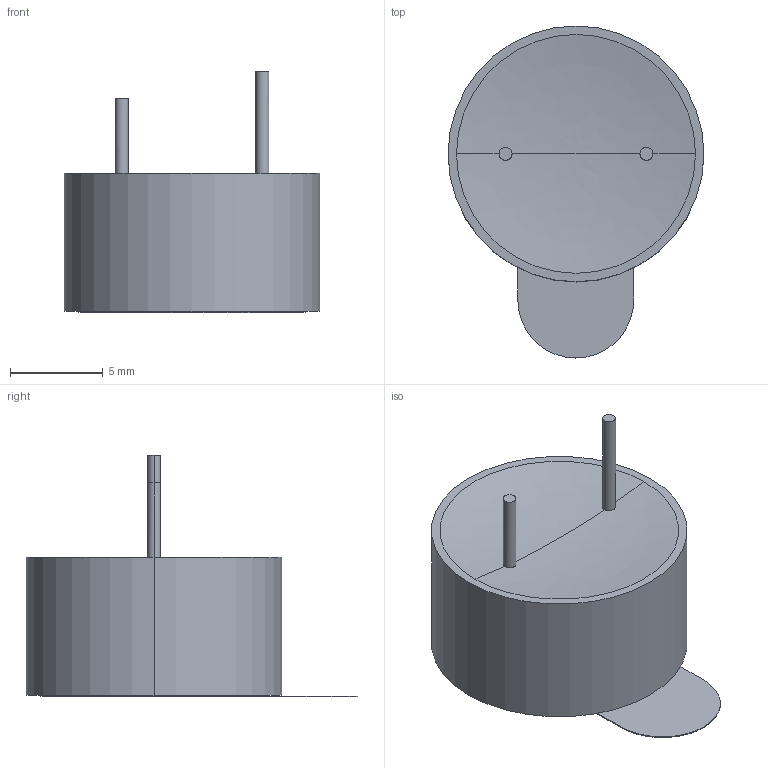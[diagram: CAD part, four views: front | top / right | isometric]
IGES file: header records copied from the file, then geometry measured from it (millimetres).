
Global section: file name: No Iges File Name specified; native system: AutoDesk Inventor R12.0; preprocessor: AutoDesk Inventor Iges Exporter R12.0; date: 20090219.083051; units: millimetre
Bounding box: 13.8 x 17.9 x 13.05 mm (x, y, z)
Volume: 809.2 mm3; surface area: 1006.3 mm2
Topology: 1 solids, 2 shells, 55 faces, 132 edges, 85 vertices
Faces by surface type: plane 29, cylinder 15, revolution 9, bspline 2
